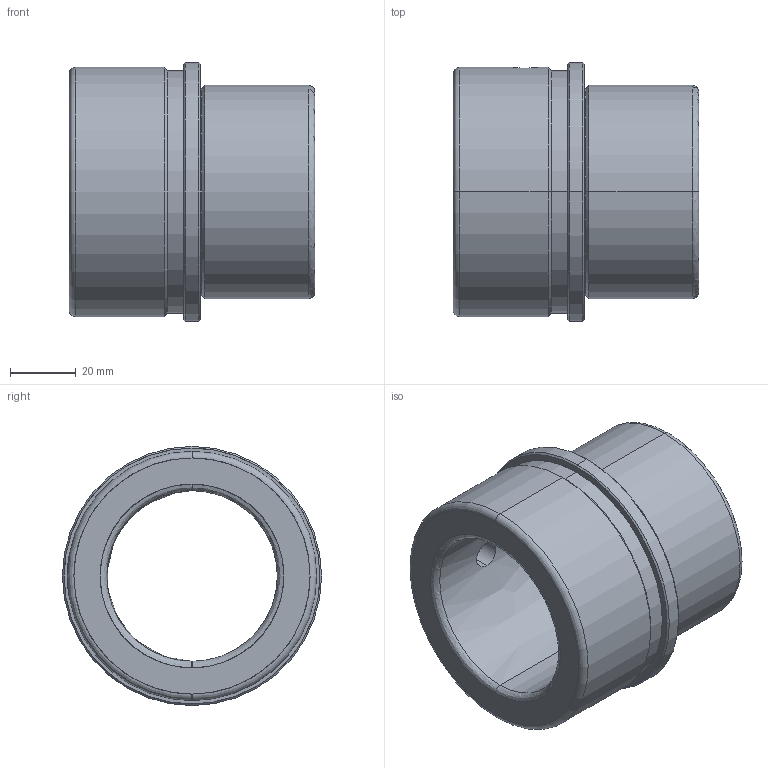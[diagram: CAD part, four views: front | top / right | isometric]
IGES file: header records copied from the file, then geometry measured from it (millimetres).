
Start section: START RECORD GO HERE.
Global section: file name: FAMO-SF1-C52 x 75.igs; native system: DASSAULT SYSTEMES CATIA V5 R20 - www.3ds.com; preprocessor: CATIA Version 5 Release 20 ; author: Utente; organization: NB04-ASUS; date: 20210106.174925; units: millimetre
Bounding box: 75 x 79 x 79 mm (x, y, z)
Surface area: 34814.9 mm2 (no closed solid volume)
Topology: 0 solids, 0 shells, 37 faces, 252 edges, 252 vertices
Faces by surface type: revolution 32, plane 5
